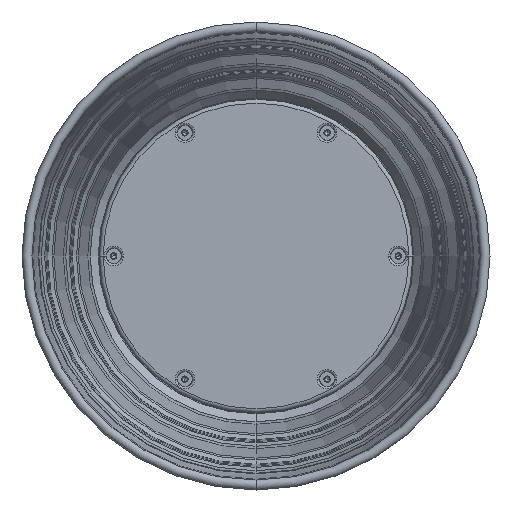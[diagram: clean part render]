
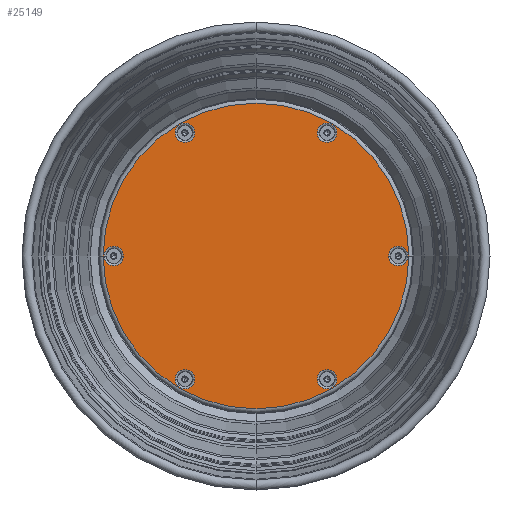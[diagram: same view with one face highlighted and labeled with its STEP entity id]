
A CAD part, front view. The second image highlights one B-rep face of the part: STEP entity #25149.
In plain terms, the highlighted planar face has unit normal (0, -1, 0).
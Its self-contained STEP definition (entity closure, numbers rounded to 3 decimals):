
#1 = FACE_BOUND ( 'NONE', #31783, .T. ) ;
#215 = DIRECTION ( 'NONE',  ( -1., 0., 0. ) ) ;
#262 = DIRECTION ( 'NONE',  ( -1., 0., 0. ) ) ;
#663 = EDGE_CURVE ( 'NONE', #12272, #38986, #31727, .T. ) ;
#1739 = CIRCLE ( 'NONE', #14611, 4.882 ) ;
#1762 = VERTEX_POINT ( 'NONE', #27200 ) ;
#2297 = DIRECTION ( 'NONE',  ( 0., 1., 0. ) ) ;
#2541 = FACE_BOUND ( 'NONE', #22647, .T. ) ;
#2547 = DIRECTION ( 'NONE',  ( -1., 0., 0. ) ) ;
#2902 = CARTESIAN_POINT ( 'NONE',  ( -76.382, 211.75, 0. ) ) ;
#2987 = DIRECTION ( 'NONE',  ( -1., 0., 0. ) ) ;
#4380 = EDGE_CURVE ( 'NONE', #23986, #41182, #12450, .T. ) ;
#4578 = EDGE_LOOP ( 'NONE', ( #18828, #37538 ) ) ;
#4826 = EDGE_LOOP ( 'NONE', ( #11003, #13305 ) ) ;
#5041 = AXIS2_PLACEMENT_3D ( 'NONE', #19040, #28239, #32055 ) ;
#5088 = CARTESIAN_POINT ( 'NONE',  ( 30.868, 211.75, -61.921 ) ) ;
#5540 = DIRECTION ( 'NONE',  ( -1., 0., 0. ) ) ;
#6137 = CARTESIAN_POINT ( 'NONE',  ( 40.632, 211.75, 61.921 ) ) ;
#6307 = CARTESIAN_POINT ( 'NONE',  ( -30.868, 211.75, -61.921 ) ) ;
#6944 = DIRECTION ( 'NONE',  ( 0., 1., 0. ) ) ;
#7159 = EDGE_CURVE ( 'NONE', #17047, #13366, #33374, .T. ) ;
#7433 = ORIENTED_EDGE ( 'NONE', *, *, #35175, .T. ) ;
#7664 = ORIENTED_EDGE ( 'NONE', *, *, #663, .T. ) ;
#7832 = AXIS2_PLACEMENT_3D ( 'NONE', #27247, #24894, #14879 ) ;
#8621 = CARTESIAN_POINT ( 'NONE',  ( 40.632, 211.75, -61.921 ) ) ;
#8841 = ORIENTED_EDGE ( 'NONE', *, *, #30669, .T. ) ;
#9078 = CARTESIAN_POINT ( 'NONE',  ( -71.5, 211.75, 0. ) ) ;
#9357 = CARTESIAN_POINT ( 'NONE',  ( -76.842, 211.75, 0. ) ) ;
#9867 = EDGE_CURVE ( 'NONE', #36642, #26408, #35644, .T. ) ;
#9884 = CARTESIAN_POINT ( 'NONE',  ( -35.75, 211.75, -61.921 ) ) ;
#10600 = EDGE_CURVE ( 'NONE', #1762, #35729, #16900, .T. ) ;
#11003 = ORIENTED_EDGE ( 'NONE', *, *, #17951, .T. ) ;
#11627 = ORIENTED_EDGE ( 'NONE', *, *, #38915, .T. ) ;
#12114 = CARTESIAN_POINT ( 'NONE',  ( 35.75, 211.75, -61.921 ) ) ;
#12272 = VERTEX_POINT ( 'NONE', #2902 ) ;
#12356 = EDGE_LOOP ( 'NONE', ( #16065, #7433 ) ) ;
#12450 = CIRCLE ( 'NONE', #36919, 76.842 ) ;
#12853 = DIRECTION ( 'NONE',  ( 0., 1., 0. ) ) ;
#13095 = ORIENTED_EDGE ( 'NONE', *, *, #4380, .T. ) ;
#13305 = ORIENTED_EDGE ( 'NONE', *, *, #9867, .T. ) ;
#13366 = VERTEX_POINT ( 'NONE', #8621 ) ;
#13505 = DIRECTION ( 'NONE',  ( -1., 0., 0. ) ) ;
#14611 = AXIS2_PLACEMENT_3D ( 'NONE', #9884, #12853, #25854 ) ;
#14626 = ORIENTED_EDGE ( 'NONE', *, *, #10600, .T. ) ;
#14707 = EDGE_CURVE ( 'NONE', #35729, #1762, #16999, .T. ) ;
#14879 = DIRECTION ( 'NONE',  ( -1., 0., 0. ) ) ;
#15089 = DIRECTION ( 'NONE',  ( 0., 1., 0. ) ) ;
#15179 = EDGE_CURVE ( 'NONE', #25947, #37091, #40882, .T. ) ;
#15446 = FACE_BOUND ( 'NONE', #12356, .T. ) ;
#15812 = CARTESIAN_POINT ( 'NONE',  ( -66.618, 211.75, 0. ) ) ;
#15896 = VERTEX_POINT ( 'NONE', #20404 ) ;
#16065 = ORIENTED_EDGE ( 'NONE', *, *, #7159, .T. ) ;
#16184 = DIRECTION ( 'NONE',  ( 0., 1., 0. ) ) ;
#16759 = AXIS2_PLACEMENT_3D ( 'NONE', #9078, #2297, #35005 ) ;
#16900 = CIRCLE ( 'NONE', #40722, 4.882 ) ;
#16999 = CIRCLE ( 'NONE', #20409, 4.882 ) ;
#17047 = VERTEX_POINT ( 'NONE', #5088 ) ;
#17140 = VERTEX_POINT ( 'NONE', #26915 ) ;
#17653 = AXIS2_PLACEMENT_3D ( 'NONE', #35316, #19102, #32118 ) ;
#17951 = EDGE_CURVE ( 'NONE', #26408, #36642, #19185, .T. ) ;
#18625 = DIRECTION ( 'NONE',  ( 0., 1., 0. ) ) ;
#18828 = ORIENTED_EDGE ( 'NONE', *, *, #18999, .T. ) ;
#18984 = CIRCLE ( 'NONE', #17653, 76.842 ) ;
#18999 = EDGE_CURVE ( 'NONE', #17140, #15896, #21271, .T. ) ;
#19040 = CARTESIAN_POINT ( 'NONE',  ( 0., 211.75, 78.773 ) ) ;
#19102 = DIRECTION ( 'NONE',  ( 0., -1., 0. ) ) ;
#19185 = CIRCLE ( 'NONE', #34774, 4.882 ) ;
#19537 = CARTESIAN_POINT ( 'NONE',  ( 71.5, 211.75, 0. ) ) ;
#19772 = DIRECTION ( 'NONE',  ( -1., 0., 0. ) ) ;
#20404 = CARTESIAN_POINT ( 'NONE',  ( 76.382, 211.75, 0. ) ) ;
#20409 = AXIS2_PLACEMENT_3D ( 'NONE', #34634, #28267, #5540 ) ;
#20548 = DIRECTION ( 'NONE',  ( -1., 0., 0. ) ) ;
#20581 = AXIS2_PLACEMENT_3D ( 'NONE', #19537, #36156, #262 ) ;
#21271 = CIRCLE ( 'NONE', #20581, 4.882 ) ;
#21493 = CARTESIAN_POINT ( 'NONE',  ( -35.75, 211.75, 61.921 ) ) ;
#21649 = PLANE ( 'NONE',  #5041 ) ;
#21897 = DIRECTION ( 'NONE',  ( -1., 0., 0. ) ) ;
#22265 = FACE_BOUND ( 'NONE', #4578, .T. ) ;
#22475 = FACE_BOUND ( 'NONE', #41737, .T. ) ;
#22647 = EDGE_LOOP ( 'NONE', ( #7664, #8841 ) ) ;
#22892 = AXIS2_PLACEMENT_3D ( 'NONE', #34822, #18625, #2547 ) ;
#23986 = VERTEX_POINT ( 'NONE', #9357 ) ;
#24894 = DIRECTION ( 'NONE',  ( 0., 1., 0. ) ) ;
#25149 = ADVANCED_FACE ( 'NONE', ( #2541, #1, #22475, #15446, #22265, #35441, #35248 ), #21649, .F. ) ;
#25854 = DIRECTION ( 'NONE',  ( -1., 0., 0. ) ) ;
#25908 = ORIENTED_EDGE ( 'NONE', *, *, #30893, .T. ) ;
#25947 = VERTEX_POINT ( 'NONE', #6307 ) ;
#26362 = CIRCLE ( 'NONE', #37834, 4.882 ) ;
#26408 = VERTEX_POINT ( 'NONE', #35543 ) ;
#26605 = CARTESIAN_POINT ( 'NONE',  ( -30.868, 211.75, 61.921 ) ) ;
#26915 = CARTESIAN_POINT ( 'NONE',  ( 66.618, 211.75, 0. ) ) ;
#26986 = ORIENTED_EDGE ( 'NONE', *, *, #15179, .T. ) ;
#27174 = DIRECTION ( 'NONE',  ( 0., 1., 0. ) ) ;
#27200 = CARTESIAN_POINT ( 'NONE',  ( -40.632, 211.75, 61.921 ) ) ;
#27247 = CARTESIAN_POINT ( 'NONE',  ( 35.75, 211.75, 61.921 ) ) ;
#28205 = CARTESIAN_POINT ( 'NONE',  ( -40.632, 211.75, -61.921 ) ) ;
#28239 = DIRECTION ( 'NONE',  ( 0., 1., 0. ) ) ;
#28267 = DIRECTION ( 'NONE',  ( 0., 1., 0. ) ) ;
#29890 = CIRCLE ( 'NONE', #34651, 4.882 ) ;
#30663 = CARTESIAN_POINT ( 'NONE',  ( 76.842, 211.75, 0. ) ) ;
#30669 = EDGE_CURVE ( 'NONE', #38986, #12272, #29890, .T. ) ;
#30893 = EDGE_CURVE ( 'NONE', #41182, #23986, #18984, .T. ) ;
#31390 = DIRECTION ( 'NONE',  ( -1., 0., 0. ) ) ;
#31727 = CIRCLE ( 'NONE', #16759, 4.882 ) ;
#31783 = EDGE_LOOP ( 'NONE', ( #14626, #41011 ) ) ;
#31860 = CARTESIAN_POINT ( 'NONE',  ( 0., 211.75, 0. ) ) ;
#32055 = DIRECTION ( 'NONE',  ( -1., 0., 0. ) ) ;
#32118 = DIRECTION ( 'NONE',  ( -1., 0., 0. ) ) ;
#32485 = DIRECTION ( 'NONE',  ( 0., -1., 0. ) ) ;
#33374 = CIRCLE ( 'NONE', #38784, 4.882 ) ;
#33754 = CARTESIAN_POINT ( 'NONE',  ( -71.5, 211.75, 0. ) ) ;
#33781 = CIRCLE ( 'NONE', #22892, 4.882 ) ;
#34384 = CARTESIAN_POINT ( 'NONE',  ( -35.75, 211.75, -61.921 ) ) ;
#34634 = CARTESIAN_POINT ( 'NONE',  ( -35.75, 211.75, 61.921 ) ) ;
#34651 = AXIS2_PLACEMENT_3D ( 'NONE', #33754, #27174, #20548 ) ;
#34774 = AXIS2_PLACEMENT_3D ( 'NONE', #36599, #16184, #19772 ) ;
#34789 = DIRECTION ( 'NONE',  ( 0., 1., 0. ) ) ;
#34822 = CARTESIAN_POINT ( 'NONE',  ( 35.75, 211.75, -61.921 ) ) ;
#35005 = DIRECTION ( 'NONE',  ( -1., 0., 0. ) ) ;
#35175 = EDGE_CURVE ( 'NONE', #13366, #17047, #33781, .T. ) ;
#35248 = FACE_OUTER_BOUND ( 'NONE', #38344, .T. ) ;
#35316 = CARTESIAN_POINT ( 'NONE',  ( 0., 211.75, 0. ) ) ;
#35406 = AXIS2_PLACEMENT_3D ( 'NONE', #34384, #34789, #31390 ) ;
#35441 = FACE_BOUND ( 'NONE', #4826, .T. ) ;
#35522 = EDGE_CURVE ( 'NONE', #15896, #17140, #26362, .T. ) ;
#35543 = CARTESIAN_POINT ( 'NONE',  ( 30.868, 211.75, 61.921 ) ) ;
#35644 = CIRCLE ( 'NONE', #7832, 4.882 ) ;
#35729 = VERTEX_POINT ( 'NONE', #26605 ) ;
#36052 = CARTESIAN_POINT ( 'NONE',  ( 71.5, 211.75, 0. ) ) ;
#36156 = DIRECTION ( 'NONE',  ( 0., 1., 0. ) ) ;
#36599 = CARTESIAN_POINT ( 'NONE',  ( 35.75, 211.75, 61.921 ) ) ;
#36642 = VERTEX_POINT ( 'NONE', #6137 ) ;
#36919 = AXIS2_PLACEMENT_3D ( 'NONE', #31860, #32485, #215 ) ;
#37091 = VERTEX_POINT ( 'NONE', #28205 ) ;
#37538 = ORIENTED_EDGE ( 'NONE', *, *, #35522, .T. ) ;
#37834 = AXIS2_PLACEMENT_3D ( 'NONE', #36052, #6944, #13505 ) ;
#38022 = DIRECTION ( 'NONE',  ( 0., 1., 0. ) ) ;
#38344 = EDGE_LOOP ( 'NONE', ( #13095, #25908 ) ) ;
#38784 = AXIS2_PLACEMENT_3D ( 'NONE', #12114, #38022, #2987 ) ;
#38915 = EDGE_CURVE ( 'NONE', #37091, #25947, #1739, .T. ) ;
#38986 = VERTEX_POINT ( 'NONE', #15812 ) ;
#40722 = AXIS2_PLACEMENT_3D ( 'NONE', #21493, #15089, #21897 ) ;
#40882 = CIRCLE ( 'NONE', #35406, 4.882 ) ;
#41011 = ORIENTED_EDGE ( 'NONE', *, *, #14707, .T. ) ;
#41182 = VERTEX_POINT ( 'NONE', #30663 ) ;
#41737 = EDGE_LOOP ( 'NONE', ( #11627, #26986 ) ) ;
